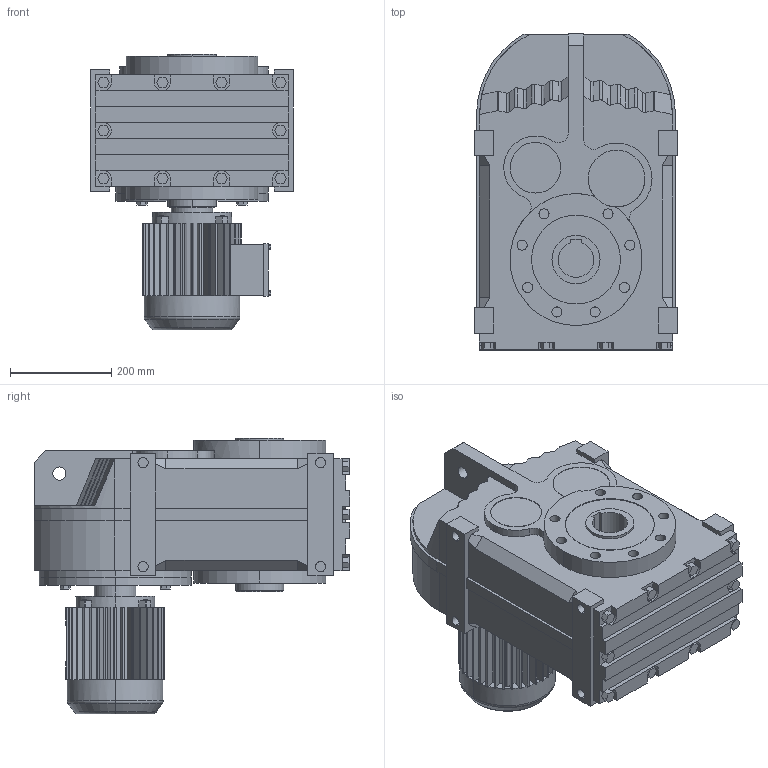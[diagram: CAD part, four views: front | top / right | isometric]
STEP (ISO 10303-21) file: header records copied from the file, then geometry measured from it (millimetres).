
FILE_DESCRIPTION(('Open CASCADE Model'),'2;1');
FILE_NAME('Open CASCADE Shape Model','2021-07-20T10:08:38',('Author'),( 'Open CASCADE'),'Open CASCADE STEP processor 6.3','Open CASCADE 6.3' ,'Unknown');
FILE_SCHEMA(('AUTOMOTIVE_DESIGN_CC2 { 1 2 10303 214 -1 1 5 4 }'));
Length unit declared in the file: millimetre
Products named in the file (4): 1_FA97-Y90S; FA27‵157_97.step; 萇儂_300.step; す瑩諾陑粣F_97.step
Assembly tree (3 placements, depth 2):
  1_FA97-Y90S
    FA27‵157_97.step
    萇儂_300.step
    す瑩諾陑粣F_97.step
Bounding box: 400 x 623 x 544 mm (x, y, z)
Volume: 58250428.8 mm3; surface area: 1815817.1 mm2
Topology: 3 solids, 3 shells, 780 faces, 2057 edges, 1338 vertices
Faces by surface type: plane 566, cylinder 192, bspline 16, torus 4, cone 2
Entity records: 52110 total; most frequent: CARTESIAN_POINT 12565, DIRECTION 6937, ORIENTED_EDGE 4114, PCURVE 4114, DEFINITIONAL_REPRESENTATION 4114, LINE 3927, VECTOR 3927, EDGE_CURVE 2057
